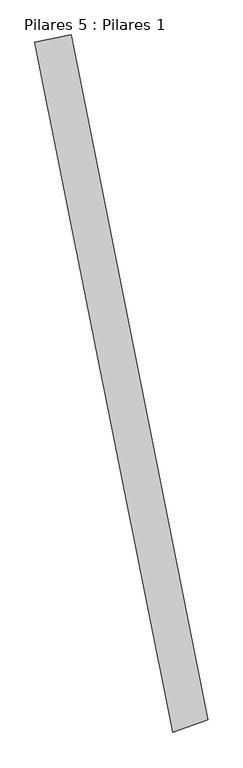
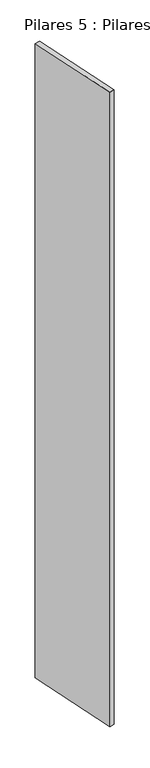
"""IFC4 building model written with IfcOpenShell, lengths in millimetres: column geometry, Pilares 5 : Pilares 1."""

from ifc_helpers import new_model, si_unit, frame, origin, place, context, project, spatial, polyline, outline, extrude, source, transform, mapped, element, save


def pilares_5_pilares_1_57f8f8bf(model_context):
    return source(origin(), model_context, "Body", "SweptSolid", [
        extrude(outline(polyline([(53849.9306212, 31245.0437975), (54478.0509778, 28108.9710423), (54316.2248011, 28051.3037081), (53683.2411715, 31211.657762), (53849.9306212, 31245.0437975)])), frame((0.0, 0.0, -7300.0), z_axis=(0.0, 0.0, 1.0), x_axis=(1.0, 0.0, 0.0)), (0.0, 0.0, 1.0), 22020.0),
    ])


if __name__ == "__main__":
    model = new_model("IFC4")
    model_context = context("Model", 3, world=origin())
    ifc_project = project(units=[si_unit("LENGTHUNIT", "METRE", prefix="MILLI")], contexts=[model_context])
    site = spatial("IfcSite", under=ifc_project)
    building = spatial("IfcBuilding", under=site)
    placement = place(None, origin())
    pilares_5_pilares_1_shape = pilares_5_pilares_1_57f8f8bf(model_context)
    element("IfcColumn", 1, ObjectType="Pilares 5 : Pilares 1", at=placement, inside=building, context=model_context, shape_type="MappedRepresentation", body=[
        mapped(pilares_5_pilares_1_shape, transform((0.0, 0.0, 0.0), x_axis=(1.0, 0.0, 0.0), y_axis=(0.0, 1.0, 0.0), z_axis=(0.0, 0.0, 1.0))),
    ])
    save(model, "model.ifc")
